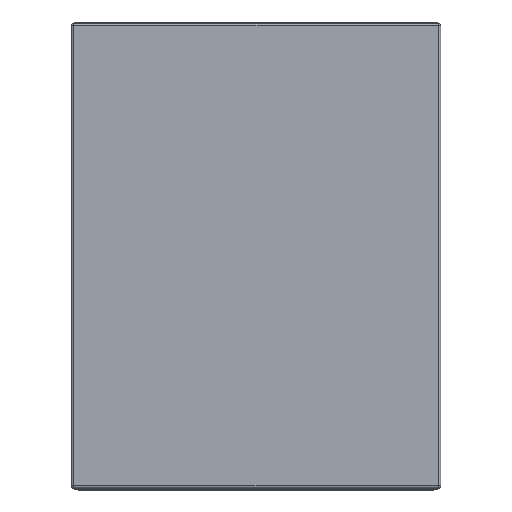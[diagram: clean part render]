
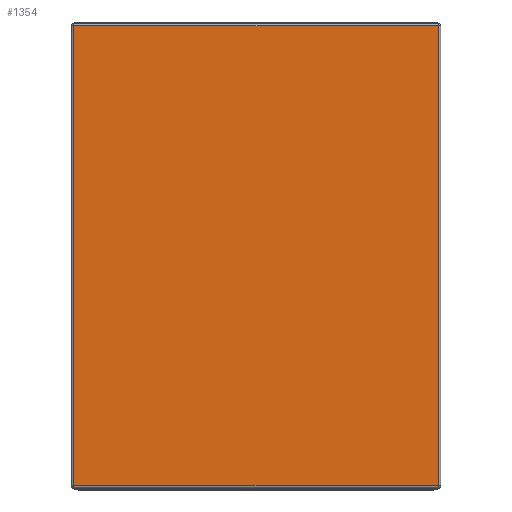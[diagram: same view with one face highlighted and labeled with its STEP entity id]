
A CAD part, top view. The second image highlights one B-rep face of the part: STEP entity #1354.
In plain terms, the highlighted planar face has unit normal (0, 0, 1).
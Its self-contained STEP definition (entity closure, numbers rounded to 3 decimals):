
#169 = PLANE ( 'NONE',  #3302 ) ;
#331 = DIRECTION ( 'NONE',  ( -1., 0., 0. ) ) ;
#398 = VERTEX_POINT ( 'NONE', #4163 ) ;
#484 = VERTEX_POINT ( 'NONE', #3664 ) ;
#575 = LINE ( 'NONE', #2888, #3279 ) ;
#710 = CARTESIAN_POINT ( 'NONE',  ( 290.212, 28., 100. ) ) ;
#831 = VERTEX_POINT ( 'NONE', #1664 ) ;
#851 = VERTEX_POINT ( 'NONE', #1463 ) ;
#1226 = EDGE_CURVE ( 'NONE', #851, #831, #3807, .T. ) ;
#1252 = DIRECTION ( 'NONE',  ( 0., 0., -1. ) ) ;
#1354 = ADVANCED_FACE ( 'NONE', ( #4332 ), #169, .F. ) ;
#1463 = CARTESIAN_POINT ( 'NONE',  ( -236., 27., 100. ) ) ;
#1565 = EDGE_CURVE ( 'NONE', #484, #851, #575, .T. ) ;
#1664 = CARTESIAN_POINT ( 'NONE',  ( -236., -568., 100. ) ) ;
#1677 = CARTESIAN_POINT ( 'NONE',  ( -236., -571., 100. ) ) ;
#1806 = ORIENTED_EDGE ( 'NONE', *, *, #2238, .T. ) ;
#1906 = EDGE_CURVE ( 'NONE', #398, #484, #6285, .T. ) ;
#1957 = ORIENTED_EDGE ( 'NONE', *, *, #1226, .T. ) ;
#2031 = VECTOR ( 'NONE', #2835, 1000. ) ;
#2126 = CARTESIAN_POINT ( 'NONE',  ( 236., 30., 100. ) ) ;
#2238 = EDGE_CURVE ( 'NONE', #831, #398, #3335, .T. ) ;
#2670 = VECTOR ( 'NONE', #5044, 1000. ) ;
#2835 = DIRECTION ( 'NONE',  ( 1., 0., 0. ) ) ;
#2888 = CARTESIAN_POINT ( 'NONE',  ( 290.212, 27., 100. ) ) ;
#3116 = ORIENTED_EDGE ( 'NONE', *, *, #1906, .T. ) ;
#3279 = VECTOR ( 'NONE', #331, 1000. ) ;
#3302 = AXIS2_PLACEMENT_3D ( 'NONE', #710, #1252, #4675 ) ;
#3335 = LINE ( 'NONE', #3794, #2031 ) ;
#3664 = CARTESIAN_POINT ( 'NONE',  ( 236., 27., 100. ) ) ;
#3794 = CARTESIAN_POINT ( 'NONE',  ( 239., -568., 100. ) ) ;
#3807 = LINE ( 'NONE', #1677, #2670 ) ;
#4022 = VECTOR ( 'NONE', #4997, 1000. ) ;
#4163 = CARTESIAN_POINT ( 'NONE',  ( 236., -568., 100. ) ) ;
#4332 = FACE_OUTER_BOUND ( 'NONE', #5388, .T. ) ;
#4675 = DIRECTION ( 'NONE',  ( -1., 0., 0. ) ) ;
#4997 = DIRECTION ( 'NONE',  ( 0., 1., 0. ) ) ;
#5044 = DIRECTION ( 'NONE',  ( 0., -1., 0. ) ) ;
#5388 = EDGE_LOOP ( 'NONE', ( #1806, #3116, #5583, #1957 ) ) ;
#5583 = ORIENTED_EDGE ( 'NONE', *, *, #1565, .T. ) ;
#6285 = LINE ( 'NONE', #2126, #4022 ) ;
